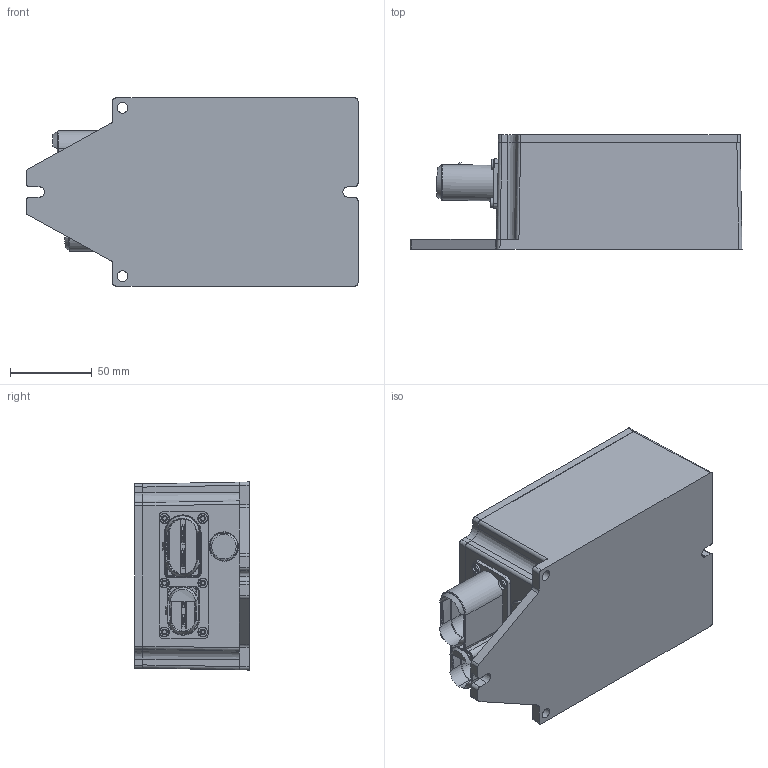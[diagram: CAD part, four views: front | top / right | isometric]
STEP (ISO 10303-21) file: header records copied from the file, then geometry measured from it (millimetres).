
FILE_DESCRIPTION (( 'STEP AP214' ), '1' );
FILE_NAME ('RMOD600-EW_3D_20220614.stp', '2022-06-14T06:59:57', ( '' ), ( '' ), 'SwSTEP 2.0', 'SolidWorks 2020', '' );
FILE_SCHEMA (( 'AUTOMOTIVE_DESIGN' ));
Length unit declared in the file: millimetre
Products named in the file (1): RMOD600-EW_3D_20220614
Bounding box: 203 x 70 x 115 mm (x, y, z)
Surface area: 192701.7 mm2 (no closed solid volume)
Topology: 0 solids, 21 shells, 1499 faces, 3748 edges, 2323 vertices
Faces by surface type: plane 540, cylinder 515, cone 185, bspline 134, torus 123, sphere 2
Entity records: 69957 total; most frequent: CARTESIAN_POINT 18729, ORIENTED_EDGE 7428, DIRECTION 7005, EDGE_CURVE 3720, AXIS2_PLACEMENT_3D 2637, VERTEX_POINT 2309, VECTOR 1731, LINE 1731
